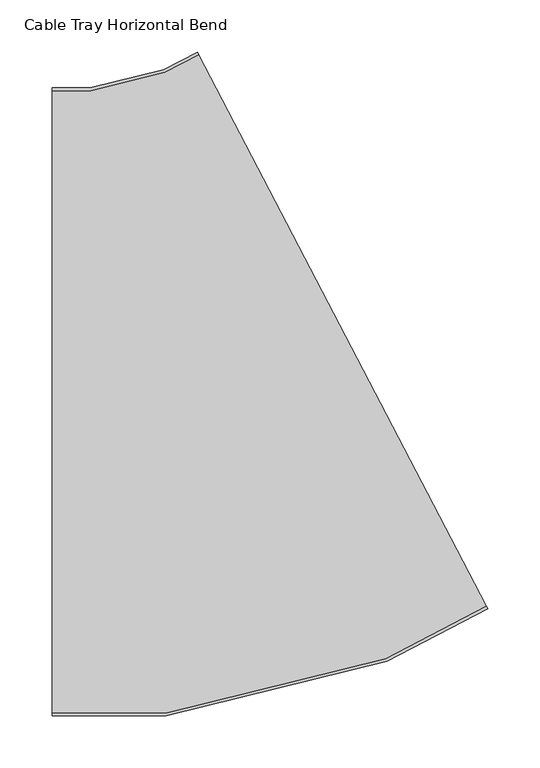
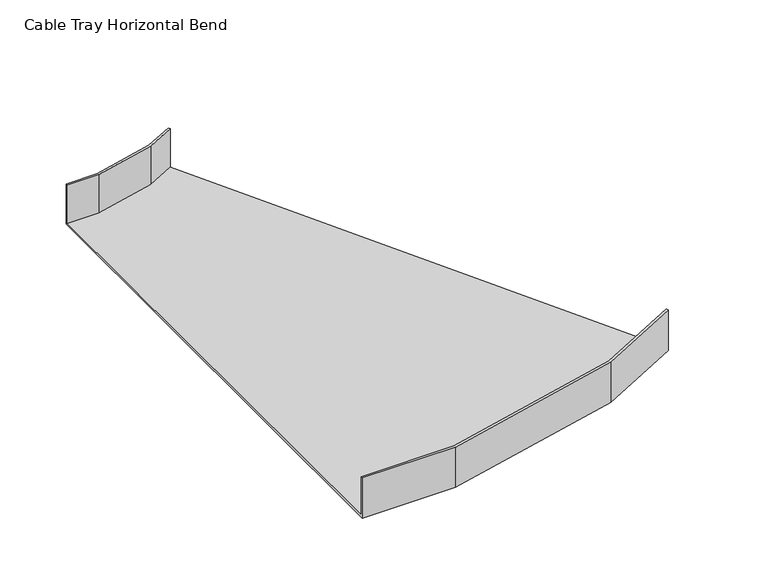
"""IFC4 building model written with IfcOpenShell, lengths in millimetres: cable carrier fitting geometry, Cable Tray Horizontal Bend : ELEC_SUB_CT_N2402."""

from ifc_helpers import new_model, si_unit, origin, place, context, project, spatial, faceted_brep, source, transform, mapped, element, save


def cable_tray_horizontal_bend_85a4f385(model_context):
    return source(origin(), model_context, "Body", "Brep", [
        faceted_brep([(-147.2236254, -300.0, -25.0), (-147.2236254, -300.0, 25.0), (-147.2236254, -297.46, 25.0), (-147.2236254, -297.46, -22.46), (-147.2236254, 297.46, -22.46), (-147.2236254, 297.46, 25.0), (-147.2236254, 300.0, 25.0), (-147.2236254, 300.0, -25.0), (269.3653586, -197.7804324, -25.0), (-8.3606307, 334.0731892, -25.0), (-8.3606307, 334.0731892, 25.0), (-7.1849241, 331.8216755, 25.0), (-7.1849241, 331.8216755, -22.46), (268.1896519, -195.5289188, -22.46), (268.1896519, -195.5289188, 25.0), (269.3653586, -197.7804324, 25.0), (-38.4196815, -300.0, -25.0), (-38.4196815, -300.0, 25.0), (172.9190726, -248.1432374, 25.0), (172.0155588, -245.7495887, 25.0), (-38.7267504, -297.46, 25.0), (-38.7267504, -297.46, -22.46), (172.0155588, -245.7495887, -22.46), (-39.6058789, 314.8919389, -22.46), (-110.6485752, 297.46, -22.46), (-110.6485752, 297.46, 25.0), (-39.6058789, 314.8919389, 25.0), (-40.5093927, 317.2855875, 25.0), (-110.9556441, 300.0, 25.0), (-110.9556441, 300.0, -25.0), (-40.5093927, 317.2855875, -25.0), (172.9190726, -248.1432374, -25.0)], [[[0, 1, 2, 3, 4, 5, 6, 7]], [[8, 9, 10, 11, 12, 13, 14, 15]], [[1, 0, 16, 17]], [[2, 1, 17, 18, 15, 14, 19, 20]], [[3, 2, 20, 21]], [[4, 3, 21, 22, 13, 12, 23, 24]], [[5, 4, 24, 25]], [[6, 5, 25, 26, 11, 10, 27, 28]], [[7, 6, 28, 29]], [[0, 7, 29, 30, 9, 8, 31, 16]], [[17, 16, 31, 18]], [[21, 20, 19, 22]], [[25, 24, 23, 26]], [[29, 28, 27, 30]], [[18, 31, 8, 15]], [[22, 19, 14, 13]], [[26, 23, 12, 11]], [[30, 27, 10, 9]]]),
    ])


if __name__ == "__main__":
    model = new_model("IFC4")
    model_context = context("Model", 3, world=origin())
    ifc_project = project(units=[si_unit("LENGTHUNIT", "METRE", prefix="MILLI")], contexts=[model_context])
    site = spatial("IfcSite", under=ifc_project)
    building = spatial("IfcBuilding", under=site)
    placement = place(None, origin())
    cable_tray_horizontal_bend_shape = cable_tray_horizontal_bend_85a4f385(model_context)
    element("IfcCableCarrierFitting", 1, ObjectType="Cable Tray Horizontal Bend : ELEC_SUB_CT_N2402", at=placement, inside=building, context=model_context, shape_type="MappedRepresentation", body=[
        mapped(cable_tray_horizontal_bend_shape, transform((0.0, 0.0, 0.0), x_axis=(1.0, 0.0, 0.0), y_axis=(0.0, 1.0, 0.0), z_axis=(0.0, 0.0, 1.0))),
    ])
    save(model, "model.ifc")
